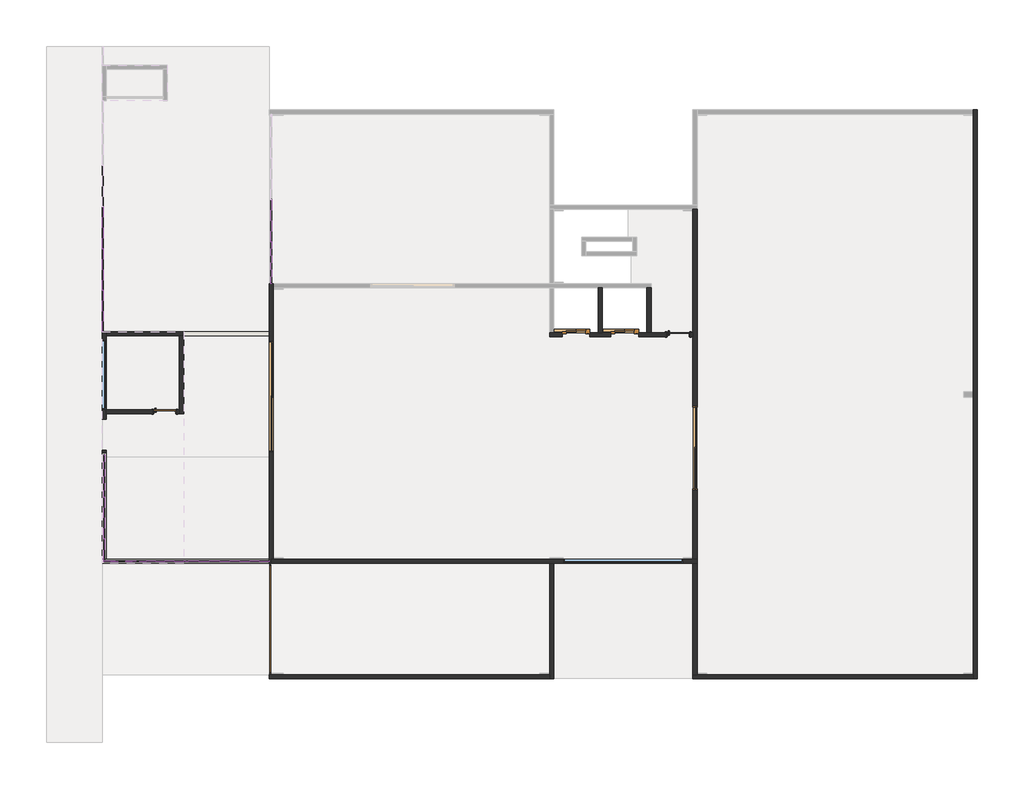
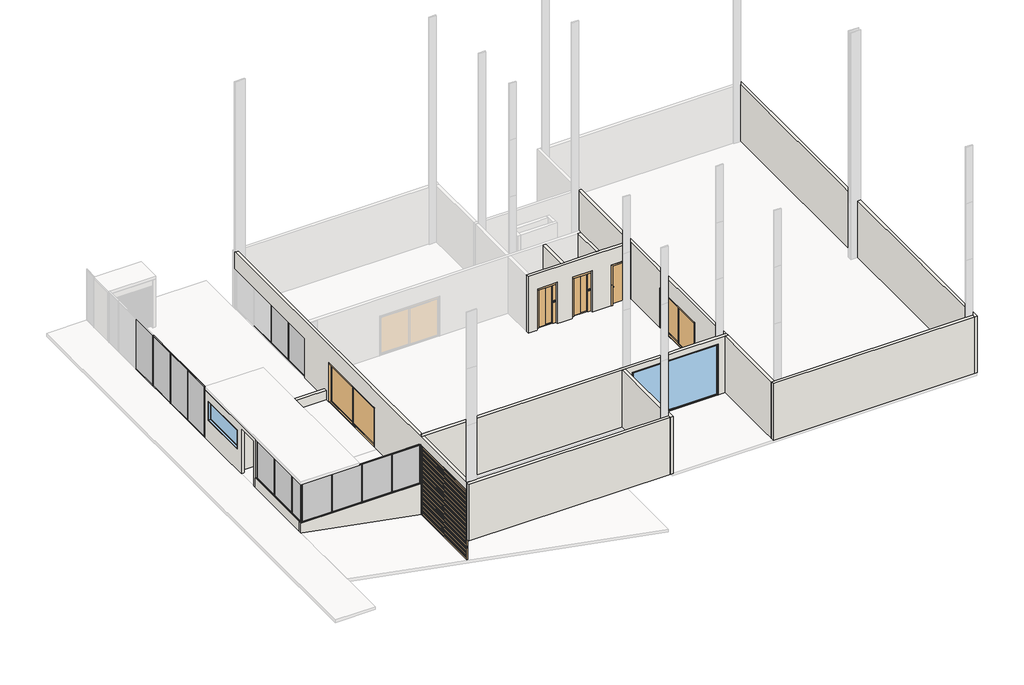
# One storey, part 1 of 2: 43 members, 19 walls, 13 plates, 7 doors, 2 windows.
"""IFC4 building model written with IfcOpenShell, lengths in millimetres."""

from ifc_helpers import new_model, si_unit, frame, origin, place, context, project, spatial, polyline, outline, extrude, faceted_brep, transform, mapped, element, save
from components import door_ffffc2e2, door_4ddf0b88, door_3_00m_x_2_10m_bc451fc0, door_4_00m_x_2_10m_2d2de526, door_interior_single_flush_panel_wood_80m_pcf_192ded05, montante_retangular_30mm_quadrado_5dbde27b, montante_retangular_30mm_quadrado_0448d2ee, montante_retangular_30mm_quadrado_27f32221, montante_retangular_30mm_quadrado_052a7b02, montante_retangular_30mm_quadrado_8cb72221, montante_retangular_30mm_quadrado_36abf0b9, montante_retangular_30mm_quadrado_8a8b1aba, montante_retangular_30mm_quadrado_a17e053e, montante_retangular_30mm_quadrado_f4abcc67, montante_retangular_30mm_quadrado_ca849ac9, montante_retangular_30mm_quadrado_e99e8ec6, montante_retangular_30mm_quadrado_ca4ccd1e, montante_retangular_30mm_quadrado_43d0b540, montante_retangular_30mm_quadrado_dc4da2e6, montante_retangular_30mm_quadrado_acd4bc9d, montante_retangular_30mm_quadrado_996be8a2, painel_do_sistema_ca16d0eb, painel_do_sistema_4731f275, painel_do_sistema_7d7a76ee, painel_do_sistema_2631fa7f, painel_do_sistema_bb9324e2, painel_do_sistema_021c2dfd, painel_do_sistema_fa65fc5a, m_fixo_j3_2_50m_x_1_50m_181a9515, m_fixo_j3_4_30m_x_2_70m_9528c059

model = new_model("IFC4")

# Units and contexts
model_context = context("Model", 3, world=origin())
ifc_project = project(units=[si_unit("LENGTHUNIT", "METRE", prefix="MILLI")], contexts=[model_context])

# Site, building, storey
site = spatial("IfcSite", under=ifc_project)
building = spatial("IfcBuilding", under=site)
storey = spatial("IfcBuildingStorey", under=building, Name="Térreo", Elevation=150.0)

# Doors
placement = place(None, origin())
door_shape = door_ffffc2e2(model_context)
element("IfcDoor", 1, ObjectType="Porta do elevador : Porta do elevador", at=placement, inside=storey, context=model_context, shape_type="MappedRepresentation", body=[
    mapped(door_shape, transform((16900.0, 14650.0, 150.0), x_axis=(1.0, 0.0, 0.0), y_axis=(0.0, 1.0, 0.0), z_axis=(0.0, 0.0, 1.0))),
])
element("IfcDoor", 2, ObjectType="Porta do elevador : Porta do elevador", at=placement, inside=storey, context=model_context, shape_type="MappedRepresentation", body=[
    mapped(door_shape, transform((18650.0, 14650.0, 150.0), x_axis=(1.0, 0.0, 0.0), y_axis=(0.0, 1.0, 0.0), z_axis=(0.0, 0.0, 1.0))),
])
door_2_shape = door_4ddf0b88(model_context)
element("IfcDoor", 3, ObjectType="Portão Ripado Horizontal : Portão paramétrico", at=placement, inside=storey, context=model_context, shape_type="MappedRepresentation", body=[
    mapped(door_2_shape, transform((6075.0, 4425.0, -1050.0), x_axis=(0.0, -1.0, 0.0), y_axis=(1.0, 0.0, 0.0), z_axis=(0.0, 0.0, 1.0))),
])
door_3_00m_x_2_10m_shape = door_3_00m_x_2_10m_bc451fc0(model_context)
element("IfcDoor", 4, ObjectType="Porta de Correr - 2 Folhas - ComPainel 1 : 3.00m x 2.10m", at=placement, inside=storey, context=model_context, shape_type="MappedRepresentation", body=[
    mapped(door_3_00m_x_2_10m_shape, transform((21300.0, 10604.2060771, 150.0), x_axis=(0.0, -1.0, 0.0), y_axis=(1.0, 0.0, 0.0), z_axis=(0.0, 0.0, 1.0))),
])
door_4_00m_x_2_10m_shape = door_4_00m_x_2_10m_2d2de526(model_context)
element("IfcDoor", 5, ObjectType="Porta de Correr - 2 Folhas - ComPainel 1 : 4.00m x 2.10m", at=placement, inside=storey, context=model_context, shape_type="MappedRepresentation", body=[
    mapped(door_4_00m_x_2_10m_shape, transform((6075.0, 12454.2060771, 150.0), x_axis=(0.0, -1.0, 0.0), y_axis=(1.0, 0.0, 0.0), z_axis=(0.0, 0.0, 1.0))),
])
door_interior_single_flush_panel_wood_80m_pcf_shape = door_interior_single_flush_panel_wood_80m_pcf_192ded05(model_context)
element("IfcDoor", 6, ObjectType="Door-Interior-Single-Flush_Panel-Wood : .80m", at=placement, inside=storey, context=model_context, shape_type="MappedRepresentation", body=[
    mapped(door_interior_single_flush_panel_wood_80m_pcf_shape, transform((2245.7500339, 11882.7517199, 150.0), x_axis=(1.0, 0.0, 0.0), y_axis=(0.0, 1.0, 0.0), z_axis=(0.0, 0.0, 1.0))),
])
element("IfcDoor", 7, ObjectType="Door-Interior-Single-Flush_Panel-Wood : .80m - PCF", at=placement, inside=storey, context=model_context, shape_type="MappedRepresentation", body=[
    mapped(door_interior_single_flush_panel_wood_80m_pcf_shape, transform((20699.6, 14653.175, 150.0), x_axis=(1.0, 0.0, 0.0), y_axis=(0.0, 1.0, 0.0), z_axis=(0.0, 0.0, 1.0))),
])

# Members
montante_retangular_30mm_quadrado_shape = montante_retangular_30mm_quadrado_5dbde27b(model_context)
element("IfcMember", 8, ObjectType="Montante retangular : 30mm Quadrado", at=placement, inside=storey, context=model_context, shape_type="MappedRepresentation", body=[
    mapped(montante_retangular_30mm_quadrado_shape, transform((6075.0, 17990.0000003, 2250.0), x_axis=(0.0, 0.0, 1.0), y_axis=(1.0, 0.0, 0.0), z_axis=(0.0, 1.0, 0.0))),
])
element("IfcMember", 9, ObjectType="Montante retangular : 30mm Quadrado", at=placement, inside=storey, context=model_context, shape_type="MappedRepresentation", body=[
    mapped(montante_retangular_30mm_quadrado_shape, transform((75.0, 8809.5767196, 2700.0), x_axis=(0.0, 0.0, 1.0), y_axis=(-1.0, 0.0, 0.0), z_axis=(0.0, -1.0, 0.0))),
])
montante_retangular_30mm_quadrado_2_shape = montante_retangular_30mm_quadrado_0448d2ee(model_context)
element("IfcMember", 10, ObjectType="Montante retangular : 30mm Quadrado", at=placement, inside=storey, context=model_context, shape_type="MappedRepresentation", body=[
    mapped(montante_retangular_30mm_quadrado_2_shape, transform((15.0, 17735.4232804, 2850.0), x_axis=(0.0, 0.0, 1.0), y_axis=(1.0, 0.0, 0.0), z_axis=(0.0, 1.0, 0.0))),
])
element("IfcMember", 11, ObjectType="Montante retangular : 30mm Quadrado", at=placement, inside=storey, context=model_context, shape_type="MappedRepresentation", body=[
    mapped(montante_retangular_30mm_quadrado_2_shape, transform((15.0, 19235.4232804, 2850.0), x_axis=(0.0, 0.0, 1.0), y_axis=(1.0, 0.0, 0.0), z_axis=(0.0, 1.0, 0.0))),
])
element("IfcMember", 12, ObjectType="Montante retangular : 30mm Quadrado", at=placement, inside=storey, context=model_context, shape_type="MappedRepresentation", body=[
    mapped(montante_retangular_30mm_quadrado_2_shape, transform((6075.0, 19490.0000003, 2250.0), x_axis=(0.0, 0.0, 1.0), y_axis=(1.0, 0.0, 0.0), z_axis=(0.0, 1.0, 0.0))),
])
element("IfcMember", 13, ObjectType="Montante retangular : 30mm Quadrado", at=placement, inside=storey, context=model_context, shape_type="MappedRepresentation", body=[
    mapped(montante_retangular_30mm_quadrado_2_shape, transform((75.0, 7309.5767196, 2700.0), x_axis=(0.0, 0.0, 1.0), y_axis=(-1.0, 0.0, 0.0), z_axis=(0.0, -1.0, 0.0))),
])
element("IfcMember", 14, ObjectType="Montante retangular : 30mm Quadrado", at=placement, inside=storey, context=model_context, shape_type="MappedRepresentation", body=[
    mapped(montante_retangular_30mm_quadrado_2_shape, transform((4590.0000003, 6500.0, 2700.0), x_axis=(0.0, 0.0, 1.0), y_axis=(0.0, -1.0, 0.0), z_axis=(1.0, 0.0, 0.0))),
])
element("IfcMember", 15, ObjectType="Montante retangular : 30mm Quadrado", at=placement, inside=storey, context=model_context, shape_type="MappedRepresentation", body=[
    mapped(montante_retangular_30mm_quadrado_shape, transform((6075.0, 16475.0, 150.0), x_axis=(0.0, 0.0, -1.0), y_axis=(1.0, 0.0, 0.0), z_axis=(0.0, -1.0, 0.0))),
])
element("IfcMember", 16, ObjectType="Montante retangular : 30mm Quadrado", at=placement, inside=storey, context=model_context, shape_type="MappedRepresentation", body=[
    mapped(montante_retangular_30mm_quadrado_shape, transform((75.0, 10324.5767199, 650.0), x_axis=(0.0, 0.0, -1.0), y_axis=(-1.0, 0.0, 0.0), z_axis=(0.0, 1.0, 0.0))),
])
element("IfcMember", 17, ObjectType="Montante retangular : 30mm Quadrado", at=placement, inside=storey, context=model_context, shape_type="MappedRepresentation", body=[
    mapped(montante_retangular_30mm_quadrado_2_shape, transform((15.0, 16235.4232804, 150.0), x_axis=(0.0, 0.0, -1.0), y_axis=(1.0, 0.0, 0.0), z_axis=(0.0, -1.0, 0.0))),
])
element("IfcMember", 18, ObjectType="Montante retangular : 30mm Quadrado", at=placement, inside=storey, context=model_context, shape_type="MappedRepresentation", body=[
    mapped(montante_retangular_30mm_quadrado_2_shape, transform((15.0, 17735.4232804, 150.0), x_axis=(0.0, 0.0, -1.0), y_axis=(1.0, 0.0, 0.0), z_axis=(0.0, -1.0, 0.0))),
])
element("IfcMember", 19, ObjectType="Montante retangular : 30mm Quadrado", at=placement, inside=storey, context=model_context, shape_type="MappedRepresentation", body=[
    mapped(montante_retangular_30mm_quadrado_2_shape, transform((15.0, 19235.4232804, 150.0), x_axis=(0.0, 0.0, -1.0), y_axis=(1.0, 0.0, 0.0), z_axis=(0.0, -1.0, 0.0))),
])
element("IfcMember", 20, ObjectType="Montante retangular : 30mm Quadrado", at=placement, inside=storey, context=model_context, shape_type="MappedRepresentation", body=[
    mapped(montante_retangular_30mm_quadrado_2_shape, transform((6075.0, 17990.0000003, 150.0), x_axis=(0.0, 0.0, -1.0), y_axis=(1.0, 0.0, 0.0), z_axis=(0.0, -1.0, 0.0))),
])
element("IfcMember", 21, ObjectType="Montante retangular : 30mm Quadrado", at=placement, inside=storey, context=model_context, shape_type="MappedRepresentation", body=[
    mapped(montante_retangular_30mm_quadrado_2_shape, transform((6075.0, 19490.0000003, 150.0), x_axis=(0.0, 0.0, -1.0), y_axis=(1.0, 0.0, 0.0), z_axis=(0.0, -1.0, 0.0))),
])
element("IfcMember", 22, ObjectType="Montante retangular : 30mm Quadrado", at=placement, inside=storey, context=model_context, shape_type="MappedRepresentation", body=[
    mapped(montante_retangular_30mm_quadrado_2_shape, transform((75.0, 8809.5767196, 650.0), x_axis=(0.0, 0.0, -1.0), y_axis=(-1.0, 0.0, 0.0), z_axis=(0.0, 1.0, 0.0))),
])
element("IfcMember", 23, ObjectType="Montante retangular : 30mm Quadrado", at=placement, inside=storey, context=model_context, shape_type="MappedRepresentation", body=[
    mapped(montante_retangular_30mm_quadrado_2_shape, transform((1590.0000003, 6500.0, 650.0), x_axis=(0.0, 0.0, -1.0), y_axis=(0.0, -1.0, 0.0), z_axis=(-1.0, 0.0, 0.0))),
])
element("IfcMember", 24, ObjectType="Montante retangular : 30mm Quadrado", at=placement, inside=storey, context=model_context, shape_type="MappedRepresentation", body=[
    mapped(montante_retangular_30mm_quadrado_2_shape, transform((3090.0000003, 6500.0, 650.0), x_axis=(0.0, 0.0, -1.0), y_axis=(0.0, -1.0, 0.0), z_axis=(-1.0, 0.0, 0.0))),
])
montante_retangular_30mm_quadrado_3_shape = montante_retangular_30mm_quadrado_27f32221(model_context)
element("IfcMember", 25, ObjectType="Montante retangular : 30mm Quadrado", at=placement, inside=storey, context=model_context, shape_type="MappedRepresentation", body=[
    mapped(montante_retangular_30mm_quadrado_3_shape, transform((15.0, 16235.4232804, 2850.0), x_axis=(0.0, 0.0, 1.0), y_axis=(1.0, 0.0, 0.0), z_axis=(0.0, 1.0, 0.0))),
])
element("IfcMember", 26, ObjectType="Montante retangular : 30mm Quadrado", at=placement, inside=storey, context=model_context, shape_type="MappedRepresentation", body=[
    mapped(montante_retangular_30mm_quadrado_3_shape, transform((15.0, 14750.4232801, 150.0), x_axis=(0.0, 0.0, -1.0), y_axis=(1.0, 0.0, 0.0), z_axis=(0.0, -1.0, 0.0))),
])
montante_retangular_30mm_quadrado_4_shape = montante_retangular_30mm_quadrado_052a7b02(model_context)
element("IfcMember", 27, ObjectType="Montante retangular : 30mm Quadrado", at=placement, inside=storey, context=model_context, shape_type="MappedRepresentation", body=[
    mapped(montante_retangular_30mm_quadrado_4_shape, transform((15.0, 16235.4232804, 180.0), x_axis=(0.0, 1.0, 0.0), y_axis=(1.0, 0.0, 0.0), z_axis=(0.0, 0.0, -1.0))),
])
element("IfcMember", 28, ObjectType="Montante retangular : 30mm Quadrado", at=placement, inside=storey, context=model_context, shape_type="MappedRepresentation", body=[
    mapped(montante_retangular_30mm_quadrado_4_shape, transform((15.0, 17735.4232804, 180.0), x_axis=(0.0, 1.0, 0.0), y_axis=(1.0, 0.0, 0.0), z_axis=(0.0, 0.0, -1.0))),
])
element("IfcMember", 29, ObjectType="Montante retangular : 30mm Quadrado", at=placement, inside=storey, context=model_context, shape_type="MappedRepresentation", body=[
    mapped(montante_retangular_30mm_quadrado_4_shape, transform((15.0, 19235.4232804, 180.0), x_axis=(0.0, 1.0, 0.0), y_axis=(1.0, 0.0, 0.0), z_axis=(0.0, 0.0, -1.0))),
])
montante_retangular_30mm_quadrado_5_shape = montante_retangular_30mm_quadrado_8cb72221(model_context)
element("IfcMember", 30, ObjectType="Montante retangular : 30mm Quadrado", at=placement, inside=storey, context=model_context, shape_type="MappedRepresentation", body=[
    mapped(montante_retangular_30mm_quadrado_5_shape, transform((15.0, 14750.4232801, 2820.0), x_axis=(0.0, -1.0, 0.0), y_axis=(1.0, 0.0, 0.0), z_axis=(0.0, 0.0, 1.0))),
])
montante_retangular_30mm_quadrado_6_shape = montante_retangular_30mm_quadrado_36abf0b9(model_context)
element("IfcMember", 31, ObjectType="Montante retangular : 30mm Quadrado", at=placement, inside=storey, context=model_context, shape_type="MappedRepresentation", body=[
    mapped(montante_retangular_30mm_quadrado_6_shape, transform((6075.0, 17990.0000003, 180.0), x_axis=(0.0, 1.0, 0.0), y_axis=(1.0, 0.0, 0.0), z_axis=(0.0, 0.0, -1.0))),
])
element("IfcMember", 32, ObjectType="Montante retangular : 30mm Quadrado", at=placement, inside=storey, context=model_context, shape_type="MappedRepresentation", body=[
    mapped(montante_retangular_30mm_quadrado_6_shape, transform((6075.0, 19490.0000003, 180.0), x_axis=(0.0, 1.0, 0.0), y_axis=(1.0, 0.0, 0.0), z_axis=(0.0, 0.0, -1.0))),
])
montante_retangular_30mm_quadrado_7_shape = montante_retangular_30mm_quadrado_8a8b1aba(model_context)
element("IfcMember", 33, ObjectType="Montante retangular : 30mm Quadrado", at=placement, inside=storey, context=model_context, shape_type="MappedRepresentation", body=[
    mapped(montante_retangular_30mm_quadrado_7_shape, transform((6075.0, 16475.0, 2220.0), x_axis=(0.0, -1.0, 0.0), y_axis=(1.0, 0.0, 0.0), z_axis=(0.0, 0.0, 1.0))),
])
montante_retangular_30mm_quadrado_8_shape = montante_retangular_30mm_quadrado_a17e053e(model_context)
element("IfcMember", 34, ObjectType="Montante retangular : 30mm Quadrado", at=placement, inside=storey, context=model_context, shape_type="MappedRepresentation", body=[
    mapped(montante_retangular_30mm_quadrado_8_shape, transform((75.0, 8809.5767196, 680.0), x_axis=(0.0, -1.0, 0.0), y_axis=(-1.0, 0.0, 0.0), z_axis=(0.0, 0.0, -1.0))),
])
element("IfcMember", 35, ObjectType="Montante retangular : 30mm Quadrado", at=placement, inside=storey, context=model_context, shape_type="MappedRepresentation", body=[
    mapped(montante_retangular_30mm_quadrado_8_shape, transform((75.0, 7309.5767196, 680.0), x_axis=(0.0, -1.0, 0.0), y_axis=(-1.0, 0.0, 0.0), z_axis=(0.0, 0.0, -1.0))),
])
element("IfcMember", 36, ObjectType="Montante retangular : 30mm Quadrado", at=placement, inside=storey, context=model_context, shape_type="MappedRepresentation", body=[
    mapped(montante_retangular_30mm_quadrado_8_shape, transform((1590.0000003, 6500.0, 680.0), x_axis=(1.0, 0.0, 0.0), y_axis=(0.0, -1.0, 0.0), z_axis=(0.0, 0.0, -1.0))),
])
element("IfcMember", 37, ObjectType="Montante retangular : 30mm Quadrado", at=placement, inside=storey, context=model_context, shape_type="MappedRepresentation", body=[
    mapped(montante_retangular_30mm_quadrado_8_shape, transform((3090.0000003, 6500.0, 680.0), x_axis=(1.0, 0.0, 0.0), y_axis=(0.0, -1.0, 0.0), z_axis=(0.0, 0.0, -1.0))),
])
element("IfcMember", 38, ObjectType="Montante retangular : 30mm Quadrado", at=placement, inside=storey, context=model_context, shape_type="MappedRepresentation", body=[
    mapped(montante_retangular_30mm_quadrado_8_shape, transform((4590.0000003, 6500.0, 680.0), x_axis=(1.0, 0.0, 0.0), y_axis=(0.0, -1.0, 0.0), z_axis=(0.0, 0.0, -1.0))),
])
montante_retangular_30mm_quadrado_9_shape = montante_retangular_30mm_quadrado_f4abcc67(model_context)
element("IfcMember", 39, ObjectType="Montante retangular : 30mm Quadrado", at=placement, inside=storey, context=model_context, shape_type="MappedRepresentation", body=[
    mapped(montante_retangular_30mm_quadrado_9_shape, transform((75.0, 6500.0, 680.0), x_axis=(0.0, -1.0, 0.0), y_axis=(-1.0, 0.0, 0.0), z_axis=(0.0, 0.0, -1.0))),
])
element("IfcMember", 40, ObjectType="Montante retangular : 30mm Quadrado", at=placement, inside=storey, context=model_context, shape_type="MappedRepresentation", body=[
    mapped(montante_retangular_30mm_quadrado_9_shape, transform((6000.0, 6500.0, 680.0), x_axis=(1.0, 0.0, 0.0), y_axis=(0.0, -1.0, 0.0), z_axis=(0.0, 0.0, -1.0))),
])
element("IfcMember", 41, ObjectType="Montante retangular : 30mm Quadrado", at=placement, inside=storey, context=model_context, shape_type="MappedRepresentation", body=[
    mapped(montante_retangular_30mm_quadrado_9_shape, transform((75.0, 10324.5767199, 2670.0), x_axis=(0.0, 1.0, 0.0), y_axis=(-1.0, 0.0, 0.0), z_axis=(0.0, 0.0, 1.0))),
])
element("IfcMember", 42, ObjectType="Montante retangular : 30mm Quadrado", at=placement, inside=storey, context=model_context, shape_type="MappedRepresentation", body=[
    mapped(montante_retangular_30mm_quadrado_9_shape, transform((75.0, 6500.0, 2670.0), x_axis=(-1.0, 0.0, 0.0), y_axis=(0.0, -1.0, 0.0), z_axis=(0.0, 0.0, 1.0))),
])
montante_retangular_30mm_quadrado_10_shape = montante_retangular_30mm_quadrado_ca849ac9(model_context)
element("IfcMember", 43, ObjectType="Montante retangular : 30mm Quadrado", at=placement, inside=storey, context=model_context, shape_type="MappedRepresentation", body=[
    mapped(montante_retangular_30mm_quadrado_10_shape, transform((6000.0, 6500.0, 2700.0), x_axis=(0.0, 0.0, 1.0), y_axis=(0.0, -1.0, 0.0), z_axis=(1.0, 0.0, 0.0))),
])
element("IfcMember", 44, ObjectType="Montante retangular : 30mm Quadrado", at=placement, inside=storey, context=model_context, shape_type="MappedRepresentation", body=[
    mapped(montante_retangular_30mm_quadrado_10_shape, transform((4590.0000003, 6500.0, 650.0), x_axis=(0.0, 0.0, -1.0), y_axis=(0.0, -1.0, 0.0), z_axis=(-1.0, 0.0, 0.0))),
])
montante_retangular_30mm_quadrado_11_shape = montante_retangular_30mm_quadrado_e99e8ec6(model_context)
element("IfcMember", 45, ObjectType="Montante retangular : 30mm Quadrado", at=placement, inside=storey, context=model_context, shape_type="MappedRepresentation", body=[
    mapped(montante_retangular_30mm_quadrado_11_shape, transform((2921.1500339, 6500.0, 2700.0), x_axis=(0.0, 0.0, 1.0), y_axis=(0.0, -1.0, 0.0), z_axis=(1.0, 0.0, 0.0))),
])
montante_retangular_30mm_quadrado_12_shape = montante_retangular_30mm_quadrado_ca4ccd1e(model_context)
element("IfcMember", 46, ObjectType="Montante retangular : 30mm Quadrado", at=placement, inside=storey, context=model_context, shape_type="MappedRepresentation", body=[
    mapped(montante_retangular_30mm_quadrado_12_shape, transform((3090.0000003, 6500.0, 2700.0), x_axis=(0.0, 0.0, 1.0), y_axis=(0.0, -1.0, 0.0), z_axis=(1.0, 0.0, 0.0))),
])
montante_retangular_30mm_quadrado_13_shape = montante_retangular_30mm_quadrado_43d0b540(model_context)
element("IfcMember", 47, ObjectType="Montante retangular : 30mm Quadrado", at=placement, inside=storey, context=model_context, shape_type="MappedRepresentation", body=[
    mapped(montante_retangular_30mm_quadrado_13_shape, transform((75.0, 7309.5767196, 650.0), x_axis=(0.0, 0.0, -1.0), y_axis=(-1.0, 0.0, 0.0), z_axis=(0.0, 1.0, 0.0))),
])
montante_retangular_30mm_quadrado_14_shape = montante_retangular_30mm_quadrado_dc4da2e6(model_context)
element("IfcMember", 48, ObjectType="Montante retangular : 30mm Quadrado", at=placement, inside=storey, context=model_context, shape_type="MappedRepresentation", body=[
    mapped(montante_retangular_30mm_quadrado_14_shape, transform((75.0, 6500.0, 650.0), x_axis=(0.0, 0.0, -1.0), y_axis=(0.0, -1.0, 0.0), z_axis=(-1.0, 0.0, 0.0))),
])
montante_retangular_30mm_quadrado_15_shape = montante_retangular_30mm_quadrado_acd4bc9d(model_context)
element("IfcMember", 49, ObjectType="Montante retangular : 30mm Quadrado", at=placement, inside=storey, context=model_context, shape_type="MappedRepresentation", body=[
    mapped(montante_retangular_30mm_quadrado_15_shape, transform((75.0, 6500.0, 2700.0), x_axis=(0.0, 0.0, 1.0), y_axis=(-1.0, 0.0, 0.0), z_axis=(0.0, -1.0, 0.0))),
])
montante_retangular_30mm_quadrado_16_shape = montante_retangular_30mm_quadrado_996be8a2(model_context)
element("IfcMember", 50, ObjectType="Montante retangular : 30mm Quadrado", at=placement, inside=storey, context=model_context, shape_type="MappedRepresentation", body=[
    mapped(montante_retangular_30mm_quadrado_16_shape, transform((1590.0000003, 6500.0, 2700.0), x_axis=(0.0, 0.0, 1.0), y_axis=(0.0, -1.0, 0.0), z_axis=(1.0, 0.0, 0.0))),
])

# Plates
painel_do_sistema_shape = painel_do_sistema_ca16d0eb(model_context)
element("IfcPlate", 51, ObjectType="Painel do sistema : Envidraçado", at=placement, inside=storey, context=model_context, shape_type="MappedRepresentation", body=[
    mapped(painel_do_sistema_shape, transform((15.0, 15500.4232803, 180.0), x_axis=(0.0, 1.0, 0.0), y_axis=(-1.0, 0.0, 0.0), z_axis=(0.0, 0.0, 1.0))),
])
painel_do_sistema_2_shape = painel_do_sistema_4731f275(model_context)
element("IfcPlate", 52, ObjectType="Painel do sistema : Envidraçado", at=placement, inside=storey, context=model_context, shape_type="MappedRepresentation", body=[
    mapped(painel_do_sistema_2_shape, transform((15.0, 16985.4232804, 180.0), x_axis=(0.0, 1.0, 0.0), y_axis=(-1.0, 0.0, 0.0), z_axis=(0.0, 0.0, 1.0))),
])
element("IfcPlate", 53, ObjectType="Painel do sistema : Envidraçado", at=placement, inside=storey, context=model_context, shape_type="MappedRepresentation", body=[
    mapped(painel_do_sistema_2_shape, transform((15.0, 18485.4232804, 180.0), x_axis=(0.0, 1.0, 0.0), y_axis=(-1.0, 0.0, 0.0), z_axis=(0.0, 0.0, 1.0))),
])
element("IfcPlate", 54, ObjectType="Painel do sistema : Envidraçado", at=placement, inside=storey, context=model_context, shape_type="MappedRepresentation", body=[
    mapped(painel_do_sistema_2_shape, transform((15.0, 19985.4232804, 180.0), x_axis=(0.0, 1.0, 0.0), y_axis=(-1.0, 0.0, 0.0), z_axis=(0.0, 0.0, 1.0))),
])
painel_do_sistema_3_shape = painel_do_sistema_7d7a76ee(model_context)
element("IfcPlate", 55, ObjectType="Painel do sistema : Envidraçado", at=placement, inside=storey, context=model_context, shape_type="MappedRepresentation", body=[
    mapped(painel_do_sistema_3_shape, transform((6075.0, 17240.0000002, 180.0), x_axis=(0.0, 1.0, 0.0), y_axis=(-1.0, 0.0, 0.0), z_axis=(0.0, 0.0, 1.0))),
])
element("IfcPlate", 56, ObjectType="Painel do sistema : Envidraçado", at=placement, inside=storey, context=model_context, shape_type="MappedRepresentation", body=[
    mapped(painel_do_sistema_3_shape, transform((6075.0, 18740.0000003, 180.0), x_axis=(0.0, 1.0, 0.0), y_axis=(-1.0, 0.0, 0.0), z_axis=(0.0, 0.0, 1.0))),
])
painel_do_sistema_4_shape = painel_do_sistema_2631fa7f(model_context)
element("IfcPlate", 57, ObjectType="Painel do sistema : Envidraçado", at=placement, inside=storey, context=model_context, shape_type="MappedRepresentation", body=[
    mapped(painel_do_sistema_4_shape, transform((75.0, 9559.5767197, 680.0), x_axis=(0.0, -1.0, 0.0), y_axis=(1.0, 0.0, 0.0), z_axis=(0.0, 0.0, 1.0))),
])
element("IfcPlate", 58, ObjectType="Painel do sistema : Envidraçado", at=placement, inside=storey, context=model_context, shape_type="MappedRepresentation", body=[
    mapped(painel_do_sistema_4_shape, transform((75.0, 8059.5767196, 680.0), x_axis=(0.0, -1.0, 0.0), y_axis=(1.0, 0.0, 0.0), z_axis=(0.0, 0.0, 1.0))),
])
element("IfcPlate", 59, ObjectType="Painel do sistema : Envidraçado", at=placement, inside=storey, context=model_context, shape_type="MappedRepresentation", body=[
    mapped(painel_do_sistema_4_shape, transform((840.0000002, 6500.0, 680.0), x_axis=(1.0, 0.0, 0.0), y_axis=(0.0, 1.0, 0.0), z_axis=(0.0, 0.0, 1.0))),
])
element("IfcPlate", 60, ObjectType="Painel do sistema : Envidraçado", at=placement, inside=storey, context=model_context, shape_type="MappedRepresentation", body=[
    mapped(painel_do_sistema_4_shape, transform((3840.0000003, 6500.0, 680.0), x_axis=(1.0, 0.0, 0.0), y_axis=(0.0, 1.0, 0.0), z_axis=(0.0, 0.0, 1.0))),
])
painel_do_sistema_5_shape = painel_do_sistema_bb9324e2(model_context)
element("IfcPlate", 61, ObjectType="Painel do sistema : Envidraçado", at=placement, inside=storey, context=model_context, shape_type="MappedRepresentation", body=[
    mapped(painel_do_sistema_5_shape, transform((2340.0000003, 6500.0, 680.0), x_axis=(1.0, 0.0, 0.0), y_axis=(0.0, 1.0, 0.0), z_axis=(0.0, 0.0, 1.0))),
])
painel_do_sistema_6_shape = painel_do_sistema_021c2dfd(model_context)
element("IfcPlate", 62, ObjectType="Painel do sistema : Envidraçado", at=placement, inside=storey, context=model_context, shape_type="MappedRepresentation", body=[
    mapped(painel_do_sistema_6_shape, transform((5287.5000002, 6500.0, 680.0), x_axis=(1.0, 0.0, 0.0), y_axis=(0.0, 1.0, 0.0), z_axis=(0.0, 0.0, 1.0))),
])
painel_do_sistema_7_shape = painel_do_sistema_fa65fc5a(model_context)
element("IfcPlate", 63, ObjectType="Painel do sistema : Envidraçado", at=placement, inside=storey, context=model_context, shape_type="MappedRepresentation", body=[
    mapped(painel_do_sistema_7_shape, transform((75.0, 6912.2883598, 680.0), x_axis=(0.0, -1.0, 0.0), y_axis=(1.0, 0.0, 0.0), z_axis=(0.0, 0.0, 1.0))),
])

# Walls
element("IfcWall", 64, ObjectType="M_Parede Normal - 15cm - Externa", at=placement, inside=storey, context=model_context, shape_type="Brep", body=[
    faceted_brep([(6150.0, 22575.0, 3150.0), (6150.0, 22525.0, 3150.0), (6150.0, 16475.0, 3150.0), (6150.0, 16325.0, 3150.0), (6150.0, 16275.0, 3150.0), (6150.0, 6625.0, 3150.0), (6150.0, 6575.0, 3150.0), (6150.0, 2475.0, 3150.0), (6150.0, 2425.0, 3150.0), (6150.0, 2425.0, 2750.0), (6150.0, 2475.0, 2750.0), (6150.0, 6425.0, 2750.0), (6150.0, 6425.0, 150.0), (6150.0, 6575.0, 150.0), (6150.0, 6625.0, 150.0), (6150.0, 10425.0, 150.0), (6150.0, 10425.0, 2250.0), (6150.0, 14425.0, 2250.0), (6150.0, 14425.0, 150.0), (6150.0, 16275.0, 150.0), (6150.0, 16325.0, 150.0), (6150.0, 16475.0, 150.0), (6150.0, 16475.0, 2250.0), (6150.0, 22525.0, 2250.0), (6150.0, 22575.0, 2250.0), (6000.0, 2425.0, 3150.0), (6000.0, 2475.0, 3150.0), (6000.0, 22525.0, 3150.0), (6000.0, 22575.0, 3150.0), (6000.0, 22575.0, 2250.0), (6000.0, 22525.0, 2250.0), (6000.0, 16475.0, 2250.0), (6000.0, 16475.0, 150.0), (6000.0, 14425.0, 150.0), (6000.0, 14425.0, 2250.0), (6000.0, 10425.0, 2250.0), (6000.0, 10425.0, 150.0), (6000.0, 6425.0, 150.0), (6000.0, 6425.0, 2750.0), (6000.0, 2475.0, 2750.0), (6000.0, 2425.0, 2750.0)], [[[0, 1, 2, 3, 4, 5, 6, 7, 8, 9, 10, 11, 12, 13, 14, 15, 16, 17, 18, 19, 20, 21, 22, 23, 24]], [[25, 26, 27, 28, 29, 30, 31, 32, 33, 34, 35, 36, 37, 38, 39, 40]], [[8, 7, 6, 5, 4, 3, 2, 1, 0, 28, 27, 26, 25]], [[28, 0, 24, 29]], [[31, 22, 21, 32]], [[22, 31, 30, 29, 24, 23]], [[8, 25, 40, 9]], [[32, 21, 20, 19, 18, 33]], [[12, 37, 36, 15, 14, 13]], [[38, 11, 10, 9, 40, 39]], [[11, 38, 37, 12]], [[35, 16, 15, 36]], [[16, 35, 34, 17]], [[17, 34, 33, 18]]]),
])
element("IfcWall", 65, ObjectType="M_Parede Normal - 15cm - Externa", at=placement, inside=storey, context=model_context, shape_type="Brep", body=[
    faceted_brep([(31300.0, 22725.0, 150.0), (31300.0, 22575.0, 150.0), (31300.0, 22525.0, 150.0), (31300.0, 12600.0, 150.0), (31300.0, 12400.0, 150.0), (31300.0, 2475.0, 150.0), (31300.0, 2425.0, 150.0), (31300.0, 2275.0, 150.0), (31300.0, 2275.0, 3150.0), (31300.0, 2425.0, 3150.0), (31300.0, 12400.0, 3150.0), (31300.0, 12425.0, 3150.0), (31300.0, 12575.0, 3150.0), (31300.0, 12600.0, 3150.0), (31300.0, 22575.0, 3150.0), (31300.0, 22725.0, 3150.0), (31450.0, 22725.0, 150.0), (31450.0, 22725.0, 3150.0), (31450.0, 12600.0, 3150.0), (31450.0, 12575.0, 3150.0), (31450.0, 12425.0, 3150.0), (31450.0, 12400.0, 3150.0), (31450.0, 2275.0, 3150.0), (31450.0, 2275.0, 150.0)], [[[0, 1, 2, 3, 4, 5, 6, 7, 8, 9, 10, 11, 12, 13, 14, 15]], [[16, 17, 18, 19, 20, 21, 22, 23]], [[7, 6, 5, 4, 3, 2, 1, 0, 16, 23]], [[15, 14, 13, 12, 11, 10, 9, 8, 22, 21, 20, 19, 18, 17]], [[0, 15, 17, 16]], [[8, 7, 23, 22]]]),
])
element("IfcWall", 66, ObjectType="M_Parede Normal - 15cm - Externa", at=placement, inside=storey, context=model_context, shape_type="Brep", body=[
    faceted_brep([(31300.0, 2425.0, 150.0), (30950.0, 2425.0, 150.0), (21725.0, 2425.0, 150.0), (21375.0, 2425.0, 150.0), (21225.0, 2425.0, 150.0), (21225.0, 2425.0, 3150.0), (21375.0, 2425.0, 3150.0), (31300.0, 2425.0, 3150.0), (31300.0, 2275.0, 150.0), (31300.0, 2275.0, 3150.0), (21225.0, 2275.0, 3150.0), (21225.0, 2275.0, 150.0)], [[[0, 1, 2, 3, 4, 5, 6, 7]], [[8, 9, 10, 11]], [[4, 3, 2, 1, 0, 8, 11]], [[7, 6, 5, 10, 9]], [[0, 7, 9, 8]], [[5, 4, 11, 10]]]),
])
element("IfcWall", 67, ObjectType="M_Parede Normal - 15cm - Externa", at=placement, inside=storey, context=model_context, shape_type="Brep", body=[
    faceted_brep([(16225.0, 2275.0, 150.0), (16225.0, 6425.0, 150.0), (16225.0, 6425.0, 3150.0), (16225.0, 2275.0, 3150.0), (16075.0, 2275.0, 150.0), (16075.0, 2275.0, 3150.0), (16075.0, 2425.0, 3150.0), (16075.0, 6425.0, 3150.0), (16075.0, 6425.0, 150.0), (16075.0, 2475.0, 150.0), (16075.0, 2425.0, 150.0)], [[[0, 1, 2, 3]], [[4, 5, 6, 7, 8, 9, 10]], [[1, 0, 4, 10, 9, 8]], [[3, 2, 7, 6, 5]], [[0, 3, 5, 4]], [[2, 1, 8, 7]]]),
])
element("IfcWall", 68, ObjectType="M_Parede Normal - 15cm - Externa", at=placement, inside=storey, context=model_context, shape_type="Brep", body=[
    faceted_brep([(21375.0, 6425.0, 3150.0), (21225.0, 6425.0, 3150.0), (16225.0, 6425.0, 3150.0), (16075.0, 6425.0, 3150.0), (6075.0, 6425.0, 3150.0), (6075.0, 6425.0, 650.0), (6075.0, 6425.0, 150.0), (6150.0, 6425.0, 150.0), (16075.0, 6425.0, 150.0), (16225.0, 6425.0, 150.0), (16575.0, 6425.0, 150.0), (16575.0, 6425.0, 2850.0), (20875.0, 6425.0, 2850.0), (20875.0, 6425.0, 150.0), (21225.0, 6425.0, 150.0), (21375.0, 6425.0, 150.0), (6075.0, 6575.0, 3150.0), (6150.0, 6575.0, 3150.0), (6500.0, 6575.0, 3150.0), (16075.0, 6575.0, 3150.0), (16225.0, 6575.0, 3150.0), (21225.0, 6575.0, 3150.0), (21375.0, 6575.0, 3150.0), (21375.0, 6575.0, 150.0), (21225.0, 6575.0, 150.0), (20875.0, 6575.0, 150.0), (20875.0, 6575.0, 2850.0), (16575.0, 6575.0, 2850.0), (16575.0, 6575.0, 150.0), (16075.0, 6575.0, 150.0), (6500.0, 6575.0, 150.0), (6150.0, 6575.0, 150.0), (6075.0, 6575.0, 150.0), (6075.0, 6575.0, 650.0)], [[[0, 1, 2, 3, 4, 5, 6, 7, 8, 9, 10, 11, 12, 13, 14, 15]], [[16, 17, 18, 19, 20, 21, 22, 23, 24, 25, 26, 27, 28, 29, 30, 31, 32, 33]], [[23, 15, 14, 13, 25, 24]], [[6, 32, 31, 30, 29, 28, 10, 9, 8, 7]], [[4, 3, 2, 1, 0, 22, 21, 20, 19, 18, 17, 16]], [[6, 5, 4, 16, 33, 32]], [[0, 15, 23, 22]], [[12, 26, 25, 13]], [[26, 12, 11, 27]], [[27, 11, 10, 28]]]),
])
element("IfcWall", 69, ObjectType="M_Parede Normal - 15cm - Externa", at=placement, inside=storey, context=model_context, shape_type="Brep", body=[
    faceted_brep([(21225.0, 6425.0, 150.0), (21225.0, 2425.0, 150.0), (21225.0, 2425.0, 3150.0), (21225.0, 6425.0, 3150.0), (21375.0, 6425.0, 150.0), (21375.0, 6425.0, 3150.0), (21375.0, 2425.0, 3150.0), (21375.0, 2425.0, 150.0), (21375.0, 2475.0, 150.0)], [[[0, 1, 2, 3]], [[4, 5, 6, 7, 8]], [[1, 0, 4, 8, 7]], [[3, 2, 6, 5]], [[0, 3, 5, 4]], [[2, 1, 7, 6]]]),
])
element("IfcWall", 70, ObjectType="M_Parede Normal - 15cm - Externa", at=placement, inside=storey, context=model_context, shape_type="Brep", body=[
    faceted_brep([(16075.0, 2425.0, 150.0), (15725.0, 2425.0, 150.0), (6500.0, 2425.0, 150.0), (6000.0, 2425.0, 150.0), (6000.0, 2425.0, 2750.0), (6000.0, 2425.0, 3150.0), (6150.0, 2425.0, 3150.0), (16075.0, 2425.0, 3150.0), (16075.0, 2275.0, 150.0), (16075.0, 2275.0, 3150.0), (6000.0, 2275.0, 3150.0), (6000.0, 2275.0, 150.0)], [[[0, 1, 2, 3, 4, 5, 6, 7]], [[8, 9, 10, 11]], [[3, 2, 1, 0, 8, 11]], [[7, 6, 5, 10, 9]], [[0, 7, 9, 8]], [[5, 4, 3, 11, 10]]]),
])
element("IfcWall", 71, ObjectType="M_Parede Normal - 15cm - Externa", at=placement, inside=storey, context=model_context, shape_type="Brep", body=[
    faceted_brep([(0.0, 14750.4232801, 2700.0), (0.0, 14750.4232801, 150.0), (0.0, 11599.5767199, 150.0), (0.0, 11599.5767199, 2550.0), (0.0, 10499.5767199, 2550.0), (0.0, 10499.5767199, 150.0), (0.0, 10399.5767199, 150.0), (0.0, 10399.5767199, 650.0), (0.0, 10399.5767199, 2700.0), (0.0, 14454.5767199, 1250.0), (0.0, 14454.5767199, 2250.0), (0.0, 11954.5767199, 2250.0), (0.0, 11954.5767199, 1250.0), (150.0, 14750.4232801, 150.0), (150.0, 14750.4232801, 2700.0), (150.0, 14600.4232801, 2700.0), (150.0, 11954.5767199, 2700.0), (150.0, 11804.5767199, 2700.0), (150.0, 10399.5767199, 2700.0), (150.0, 10399.5767199, 650.0), (150.0, 10399.5767199, 150.0), (150.0, 10499.5767199, 150.0), (150.0, 10499.5767199, 2550.0), (150.0, 11599.5767199, 2550.0), (150.0, 11599.5767199, 150.0), (150.0, 11804.5767199, 150.0), (150.0, 11954.5767199, 150.0), (150.0, 14600.4232801, 150.0), (150.0, 14454.5767199, 2250.0), (150.0, 14454.5767199, 1250.0), (150.0, 11954.5767199, 1250.0), (150.0, 11954.5767199, 2250.0)], [[[0, 1, 2, 3, 4, 5, 6, 7, 8], [9, 10, 11, 12]], [[13, 14, 15, 16, 17, 18, 19, 20, 21, 22, 23, 24, 25, 26, 27], [28, 29, 30, 31]], [[1, 13, 27, 26, 25, 24, 2]], [[6, 5, 21, 20]], [[1, 0, 14, 13]], [[0, 8, 18, 17, 16, 15, 14]], [[23, 3, 2, 24]], [[3, 23, 22, 4]], [[4, 22, 21, 5]], [[9, 29, 28, 10]], [[11, 31, 30, 12]], [[29, 9, 12, 30]], [[31, 11, 10, 28]], [[8, 7, 6, 20, 19, 18]]]),
])
element("IfcWall", 72, ObjectType="M_Parede Normal - 15cm - Externa", at=placement, inside=storey, context=model_context, shape_type="Brep", body=[
    faceted_brep([(2921.1500339, 14750.4232801, 2700.0), (2921.1500339, 14750.4232801, 650.0), (2921.1500339, 14750.4232801, 150.0), (150.0, 14750.4232801, 150.0), (150.0, 14750.4232801, 2700.0), (2921.1500339, 14600.4232801, 150.0), (2921.1500339, 14600.4232801, 650.0), (2921.1500339, 14600.4232801, 2700.0), (2771.1500339, 14600.4232801, 2700.0), (150.0, 14600.4232801, 2700.0), (150.0, 14600.4232801, 150.0), (2771.1500339, 14600.4232801, 150.0)], [[[0, 1, 2, 3, 4]], [[5, 6, 7, 8, 9, 10, 11]], [[3, 2, 5, 11, 10]], [[4, 3, 10, 9]], [[0, 4, 9, 8, 7]], [[0, 7, 6, 5, 2, 1]]]),
])
element("IfcWall", 73, ObjectType="M_Parede Normal - 15cm - Externa", at=placement, inside=storey, context=model_context, shape_type="Brep", body=[
    faceted_brep([(2921.1500339, 11804.5767199, 150.0), (2921.1500339, 14600.4232801, 150.0), (2921.1500339, 14600.4232801, 2700.0), (2921.1500339, 11804.5767199, 2700.0), (2771.1500339, 11804.5767199, 150.0), (2771.1500339, 11804.5767199, 2700.0), (2771.1500339, 11954.5767199, 2700.0), (2771.1500339, 14600.4232801, 2700.0), (2771.1500339, 14600.4232801, 150.0), (2771.1500339, 11954.5767199, 150.0)], [[[0, 1, 2, 3]], [[4, 5, 6, 7, 8, 9]], [[1, 0, 4, 9, 8]], [[3, 2, 7, 6, 5]], [[0, 3, 5, 4]], [[1, 8, 7, 2]]]),
])
element("IfcWall", 74, ObjectType="M_Parede Normal - 15cm - Externa", at=placement, inside=storey, context=model_context, shape_type="Brep", body=[
    faceted_brep([(0.0, 6425.0, 0.0), (6000.0, 6425.0, -1200.0), (6000.0, 6425.0, 150.0), (6075.0, 6425.0, 150.0), (6075.0, 6425.0, 650.0), (0.0, 6425.0, 650.0), (0.0, 6575.0, 0.0), (0.0, 6575.0, 150.0), (0.0, 6575.0, 650.0), (150.0, 6575.0, 650.0), (6075.0, 6575.0, 650.0), (6075.0, 6575.0, 150.0), (6000.0, 6575.0, 150.0), (6000.0, 6575.0, -1200.0)], [[[0, 1, 2, 3, 4, 5]], [[6, 7, 8, 9, 10, 11, 12, 13]], [[0, 5, 8, 7, 6]], [[5, 4, 10, 9, 8]], [[1, 0, 6, 13]], [[4, 3, 11, 10]], [[11, 3, 2, 12]], [[2, 1, 13, 12]]]),
])
element("IfcWall", 75, ObjectType="M_Parede Normal - 15cm - Externa", at=placement, inside=storey, context=model_context, shape_type="SweptSolid", body=[
    extrude(outline(polyline([(0.0, 6575.0), (0.0, 10399.5767199), (150.0, 10399.5767199), (150.0, 6575.0), (0.0, 6575.0)])), frame((0.0, 0.0, 150.0), z_axis=(0.0, 0.0, 1.0), x_axis=(1.0, 0.0, 0.0)), (0.0, 0.0, 1.0), 500.0),
])
element("IfcWall", 76, ObjectType="M_Parede Normal - 15cm - Externa", at=placement, inside=storey, context=model_context, shape_type="SweptSolid", body=[
    extrude(outline(polyline([(-1200.0, 6000.0), (0.0, 6000.0), (0.0, 150.0), (-30.0, 150.0), (-1200.0, 6000.0)])), frame((0.0, 10249.5767199, 0.0), z_axis=(0.0, 1.0, 0.0), x_axis=(0.0, 0.0, 1.0)), (0.0, 0.0, 1.0), 150.0),
])
element("IfcWall", 77, ObjectType="M_Parede Normal - 15cm - Externa", at=placement, inside=storey, context=model_context, shape_type="Brep", body=[
    faceted_brep([(6000.0, 14750.4232801, 650.0), (6000.0, 14750.4232801, -1200.4934864), (2921.1500339, 14750.4232801, -604.9817678), (2921.1500339, 14750.4232801, 150.0), (2921.1500339, 14750.4232801, 650.0), (6000.0, 14600.4232801, -1200.4934864), (6000.0, 14600.4232801, 650.0), (2921.1500339, 14600.4232801, 650.0), (2921.1500339, 14600.4232801, 150.0), (2921.1500339, 14600.4232801, -604.9817678)], [[[0, 1, 2, 3, 4]], [[5, 6, 7, 8, 9]], [[0, 4, 7, 6]], [[2, 1, 5, 9]], [[0, 6, 5, 1]], [[4, 3, 2, 9, 8, 7]]]),
])
element("IfcWall", 78, ObjectType="M_Parede Normal - 15cm - Externa", at=placement, inside=storey, context=model_context, shape_type="Brep", body=[
    faceted_brep([(150.0, 11804.5767199, 2700.0), (150.0, 11804.5767199, 150.0), (1820.3500339, 11804.5767199, 150.0), (1820.3500339, 11804.5767199, 2275.4), (2671.1500339, 11804.5767199, 2275.4), (2671.1500339, 11804.5767199, 150.0), (2771.1500339, 11804.5767199, 150.0), (2771.1500339, 11804.5767199, 2700.0), (150.0, 11954.5767199, 150.0), (150.0, 11954.5767199, 1250.0), (150.0, 11954.5767199, 2250.0), (150.0, 11954.5767199, 2700.0), (2771.1500339, 11954.5767199, 2700.0), (2771.1500339, 11954.5767199, 150.0), (2671.1500339, 11954.5767199, 150.0), (2671.1500339, 11954.5767199, 2275.4), (1820.3500339, 11954.5767199, 2275.4), (1820.3500339, 11954.5767199, 150.0)], [[[0, 1, 2, 3, 4, 5, 6, 7]], [[8, 9, 10, 11, 12, 13, 14, 15, 16, 17]], [[1, 8, 17, 2]], [[13, 6, 5, 14]], [[1, 0, 11, 10, 9, 8]], [[7, 6, 13, 12]], [[0, 7, 12, 11]], [[4, 15, 14, 5]], [[15, 4, 3, 16]], [[16, 3, 2, 17]]]),
])
element("IfcWall", 79, ObjectType="M_Parede Normal - 15cm - Interna", at=placement, inside=storey, context=model_context, shape_type="Brep", body=[
    faceted_brep([(19275.0, 14575.0, 2350.0), (19275.0, 14575.0, 150.0), (20274.2, 14575.0, 150.0), (20274.2, 14575.0, 2275.4), (21125.0, 14575.0, 2275.4), (21125.0, 14575.0, 150.0), (21225.0, 14575.0, 150.0), (21225.0, 14575.0, 3150.0), (16075.0, 14575.0, 3150.0), (16075.0, 14575.0, 150.0), (16525.0, 14575.0, 150.0), (16525.0, 14575.0, 2350.0), (17525.0, 14575.0, 2350.0), (17525.0, 14575.0, 150.0), (18275.0, 14575.0, 150.0), (18275.0, 14575.0, 2350.0), (20274.2, 14725.0, 150.0), (19725.0, 14725.0, 150.0), (19575.0, 14725.0, 150.0), (19275.0, 14725.0, 150.0), (19275.0, 14725.0, 2350.0), (18275.0, 14725.0, 2350.0), (18275.0, 14725.0, 150.0), (17975.0, 14725.0, 150.0), (17825.0, 14725.0, 150.0), (17525.0, 14725.0, 150.0), (17525.0, 14725.0, 2350.0), (16525.0, 14725.0, 2350.0), (16525.0, 14725.0, 150.0), (16225.0, 14725.0, 150.0), (16075.0, 14725.0, 150.0), (16075.0, 14725.0, 3150.0), (16225.0, 14725.0, 3150.0), (17825.0, 14725.0, 3150.0), (17975.0, 14725.0, 3150.0), (19575.0, 14725.0, 3150.0), (19725.0, 14725.0, 3150.0), (21225.0, 14725.0, 3150.0), (21225.0, 14725.0, 150.0), (21125.0, 14725.0, 150.0), (21125.0, 14725.0, 2275.4), (20274.2, 14725.0, 2275.4)], [[[0, 1, 2, 3, 4, 5, 6, 7, 8, 9, 10, 11, 12, 13, 14, 15]], [[16, 17, 18, 19, 20, 21, 22, 23, 24, 25, 26, 27, 28, 29, 30, 31, 32, 33, 34, 35, 36, 37, 38, 39, 40, 41]], [[10, 9, 30, 29, 28]], [[14, 13, 25, 24, 23, 22]], [[2, 1, 19, 18, 17, 16]], [[38, 6, 5, 39]], [[8, 7, 37, 36, 35, 34, 33, 32, 31]], [[4, 40, 39, 5]], [[40, 4, 3, 41]], [[41, 3, 2, 16]], [[28, 27, 11, 10]], [[26, 25, 13, 12]], [[27, 26, 12, 11]], [[22, 21, 15, 14]], [[20, 19, 1, 0]], [[21, 20, 0, 15]], [[9, 8, 31, 30]], [[7, 6, 38, 37]]]),
])
element("IfcWall", 80, ObjectType="M_Parede Normal - 15cm - Interna", at=placement, inside=storey, context=model_context, shape_type="SweptSolid", body=[
    extrude(outline(polyline([(19575.0, 14725.0), (19575.0, 16325.0), (19725.0, 16325.0), (19725.0, 14725.0), (19575.0, 14725.0)])), frame((0.0, 0.0, 150.0), z_axis=(0.0, 0.0, 1.0), x_axis=(1.0, 0.0, 0.0)), (0.0, 0.0, 1.0), 3000.0),
])
element("IfcWall", 81, ObjectType="M_Parede Normal - 15cm - Interna", at=placement, inside=storey, context=model_context, shape_type="SweptSolid", body=[
    extrude(outline(polyline([(17825.0, 14725.0), (17825.0, 16325.0), (17975.0, 16325.0), (17975.0, 14725.0), (17825.0, 14725.0)])), frame((0.0, 0.0, 150.0), z_axis=(0.0, 0.0, 1.0), x_axis=(1.0, 0.0, 0.0)), (0.0, 0.0, 1.0), 3000.0),
])
element("IfcWall", 82, ObjectType="M_Parede Normal - 15cm - Interna", at=placement, inside=storey, context=model_context, shape_type="Brep", body=[
    faceted_brep([(21225.0, 6575.0, 3150.0), (21225.0, 14575.0, 3150.0), (21225.0, 14725.0, 3150.0), (21225.0, 19149.2009656, 3150.0), (21225.0, 19149.2009656, 150.0), (21225.0, 19099.2009656, 150.0), (21225.0, 14725.0, 150.0), (21225.0, 14575.0, 150.0), (21225.0, 12075.0, 150.0), (21225.0, 12075.0, 2250.0), (21225.0, 9075.0, 2250.0), (21225.0, 9075.0, 150.0), (21225.0, 6625.0, 150.0), (21225.0, 6575.0, 150.0), (21375.0, 19149.2009656, 3150.0), (21375.0, 6575.0, 3150.0), (21375.0, 6575.0, 150.0), (21375.0, 9075.0, 150.0), (21375.0, 9075.0, 2250.0), (21375.0, 12075.0, 2250.0), (21375.0, 12075.0, 150.0), (21375.0, 19149.2009656, 150.0)], [[[0, 1, 2, 3, 4, 5, 6, 7, 8, 9, 10, 11, 12, 13]], [[14, 15, 16, 17, 18, 19, 20, 21]], [[4, 21, 20, 8, 7, 6, 5]], [[16, 13, 12, 11, 17]], [[3, 2, 1, 0, 15, 14]], [[4, 3, 14, 21]], [[0, 13, 16, 15]], [[10, 18, 17, 11]], [[18, 10, 9, 19]], [[19, 9, 8, 20]]]),
])

# Windows
m_fixo_j3_2_50m_x_1_50m_shape = m_fixo_j3_2_50m_x_1_50m_181a9515(model_context)
element("IfcWindow", 83, ObjectType="M_Fixo : J3 - 2.50m x 1.50m", at=placement, inside=storey, context=model_context, shape_type="MappedRepresentation", body=[
    mapped(m_fixo_j3_2_50m_x_1_50m_shape, transform((62.0, 13204.5767199, 335.0), x_axis=(0.0, -1.0, 0.0), y_axis=(1.0, 0.0, 0.0), z_axis=(0.0, 0.0, 1.0))),
])
m_fixo_j3_4_30m_x_2_70m_shape = m_fixo_j3_4_30m_x_2_70m_9528c059(model_context)
element("IfcWindow", 84, ObjectType="M_Fixo : J3 - 4.30m x 2.70m", at=placement, inside=storey, context=model_context, shape_type="MappedRepresentation", body=[
    mapped(m_fixo_j3_4_30m_x_2_70m_shape, transform((18725.0, 6513.0, -765.0), x_axis=(-1.0, 0.0, 0.0), y_axis=(0.0, -1.0, 0.0), z_axis=(0.0, 0.0, 1.0))),
])

save(model, "model.ifc")
